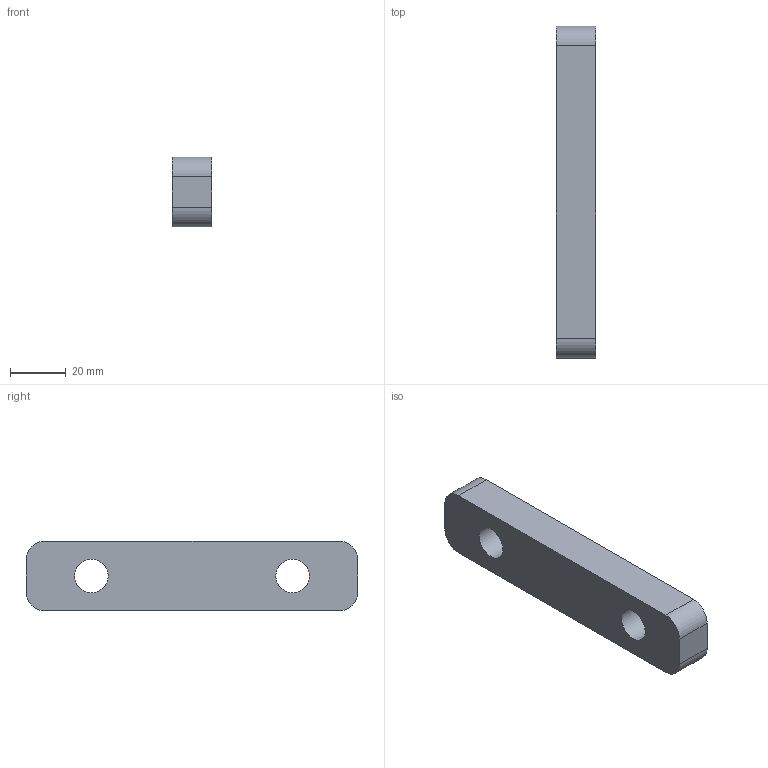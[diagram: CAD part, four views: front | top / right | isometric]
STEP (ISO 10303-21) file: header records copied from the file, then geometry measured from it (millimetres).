
FILE_DESCRIPTION(('Open CASCADE Model'),'2;1');
FILE_NAME('Q4-501','2026-10-05T14:37:24',('Author'),('Open CASCADE'), 'Open CASCADE STEP processor 8.0','build123d','Unknown');
FILE_SCHEMA(('AUTOMOTIVE_DESIGN { 1 0 10303 214 1 1 1 1 }'));
Length unit declared in the file: millimetre
Products named in the file (1): Q4-501
Bounding box: 14 x 118.8 x 25 mm (x, y, z)
Volume: 37824.4 mm3; surface area: 10317.2 mm2
Topology: 1 solids, 1 shells, 12 faces, 30 edges, 20 vertices
Faces by surface type: plane 6, cylinder 6
Full cylindrical faces by diameter (mm): 12 x2
Entity records: 786 total; most frequent: CARTESIAN_POINT 147, DIRECTION 124, LINE 66, VECTOR 66, ORIENTED_EDGE 60, PCURVE 60, DEFINITIONAL_REPRESENTATION 60, EDGE_CURVE 30
